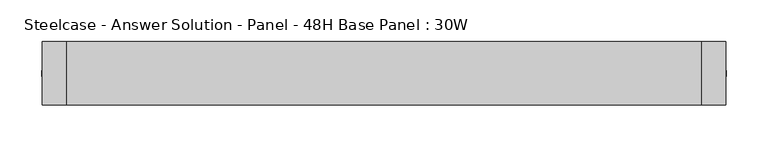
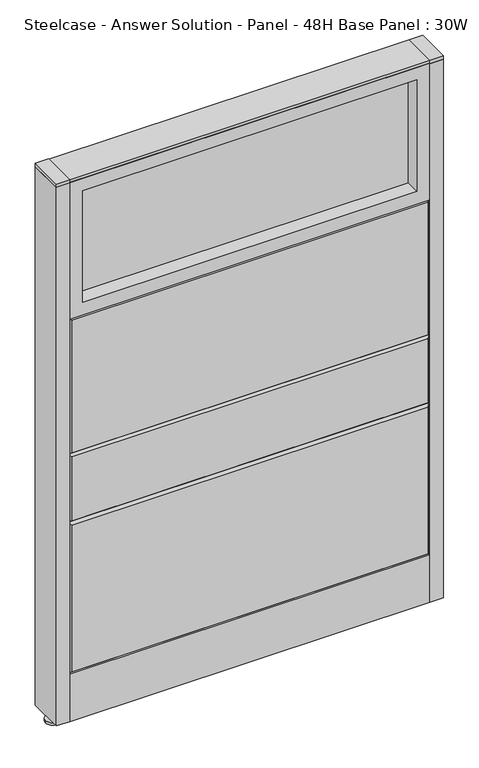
"""IFC4 building model written with IfcOpenShell, lengths in millimetres: furniture geometry, Steelcase - Answer Solution - Panel - 48H Base Panel : 30W."""

from ifc_helpers import new_model, si_unit, point, frame, frame_2d, origin, place, context, project, spatial, polyline, circle_curve, trimmed, segment, composite_curve, outline, extrude, faceted_brep, source, transform, mapped, element, save


def steelcase_answer_solution_panel_48h_base_panel_30w_a982f98d(model_context):
    return source(origin(), model_context, "Body", "SolidModel", [
        extrude(outline(composite_curve([segment(trimmed(circle_curve(frame_2d((395.224, 0.0320214)), 5.08), [point((400.304, 0.0320214))], [point((390.144, 0.0320214))], False, "CARTESIAN"), True, "CONTINUOUS"), segment(trimmed(circle_curve(frame_2d((395.224, 0.0320214)), 5.08), [point((390.144, 0.0320214))], [point((400.304, 0.0320214))], False, "CARTESIAN"), True, "CONTINUOUS")], self_intersect=False)), frame((0.0, 0.0, 5.0799671), z_axis=(0.0, 0.0, 1.0), x_axis=(1.0, 0.0, 0.0)), (0.0, 0.0, 1.0), 10.414),
        extrude(outline(composite_curve([segment(trimmed(circle_curve(frame_2d((395.224, 0.0320214)), 15.24), [point((410.464, 0.0320214))], [point((379.984, 0.0320214))], False, "CARTESIAN"), True, "CONTINUOUS"), segment(trimmed(circle_curve(frame_2d((395.224, 0.0320214)), 15.24), [point((379.984, 0.0320214))], [point((410.464, 0.0320214))], False, "CARTESIAN"), True, "CONTINUOUS")], self_intersect=False)), frame((0.0, 0.0, -3.29e-05), z_axis=(0.0, 0.0, 1.0), x_axis=(1.0, 0.0, 0.0)), (0.0, 0.0, 1.0), 5.08),
        extrude(outline(polyline([(409.575, 38.1320408), (409.575, -38.0679592), (381.0, -38.0679592), (381.0, 38.1320408), (409.575, 38.1320408)])), frame((0.0, 0.0, 1218.2348), z_axis=(0.0, 0.0, 1.0), x_axis=(1.0, 0.0, 0.0)), (0.0, 0.0, 1.0), 7.3151671),
        extrude(outline(polyline([(409.575, 38.1320408), (409.575, -38.0679592), (381.0, -38.0679592), (381.0, 38.1320408), (409.575, 38.1320408)])), frame((0.0, 0.0, 15.4939671), z_axis=(0.0, 0.0, 1.0), x_axis=(1.0, 0.0, 0.0)), (0.0, 0.0, 1.0), 1202.7408329),
        extrude(outline(composite_curve([segment(trimmed(circle_curve(frame_2d((-395.224, 0.0320214)), 5.08), [point((-400.304, 0.0320214))], [point((-390.144, 0.0320214))], False, "CARTESIAN"), True, "CONTINUOUS"), segment(trimmed(circle_curve(frame_2d((-395.224, 0.0320214)), 5.08), [point((-390.144, 0.0320214))], [point((-400.304, 0.0320214))], False, "CARTESIAN"), True, "CONTINUOUS")], self_intersect=False)), frame((0.0, 0.0, 5.0799671), z_axis=(0.0, 0.0, 1.0), x_axis=(1.0, 0.0, 0.0)), (0.0, 0.0, 1.0), 10.414),
        extrude(outline(composite_curve([segment(trimmed(circle_curve(frame_2d((-395.224, 0.0320214)), 15.24), [point((-410.464, 0.0320214))], [point((-379.984, 0.0320214))], False, "CARTESIAN"), True, "CONTINUOUS"), segment(trimmed(circle_curve(frame_2d((-395.224, 0.0320214)), 15.24), [point((-379.984, 0.0320214))], [point((-410.464, 0.0320214))], False, "CARTESIAN"), True, "CONTINUOUS")], self_intersect=False)), frame((0.0, 0.0, -3.29e-05), z_axis=(0.0, 0.0, 1.0), x_axis=(1.0, 0.0, 0.0)), (0.0, 0.0, 1.0), 5.08),
        extrude(outline(polyline([(-409.575, 38.1320408), (-381.0, 38.1320408), (-381.0, -38.0679592), (-409.575, -38.0679592), (-409.575, 38.1320408)])), frame((0.0, 0.0, 1218.2348), z_axis=(0.0, 0.0, 1.0), x_axis=(1.0, 0.0, 0.0)), (0.0, 0.0, 1.0), 7.3151671),
        extrude(outline(polyline([(-409.575, 38.1320408), (-381.0, 38.1320408), (-381.0, -38.0679592), (-409.575, -38.0679592), (-409.575, 38.1320408)])), frame((0.0, 0.0, 15.4939671), z_axis=(0.0, 0.0, 1.0), x_axis=(1.0, 0.0, 0.0)), (0.0, 0.0, 1.0), 1202.7408329),
        extrude(outline(polyline([(-353.06, 6.346049), (353.06, 6.346049), (353.06, -6.353951), (-353.06, -6.353951), (-353.06, 6.346049)])), frame((0.0, 0.0, 942.34), z_axis=(0.0, 0.0, 1.0), x_axis=(1.0, 0.0, 0.0)), (0.0, 0.0, 1.0), 248.92),
        extrude(outline(polyline([(1219.2, -381.0), (914.4, -381.0), (914.4, 381.0), (1219.2, 381.0), (1219.2, -381.0)]), holes=[polyline([(1191.26, -353.06), (1191.26, 353.06), (942.34, 353.06), (942.34, -353.06), (1191.26, -353.06)])]), frame((0.0, -38.103951, 0.0), z_axis=(0.0, 1.0, 0.0), x_axis=(0.0, 0.0, 1.0)), (0.0, 0.0, 1.0), 76.2),
        faceted_brep([(-376.174, 38.1635011, 909.574), (376.174, 38.1635011, 909.574), (376.174, 38.1635011, 614.426), (-376.174, 38.1635011, 614.426), (-381.0, 33.3375011, 914.4), (-381.0, 33.3375011, 609.6), (381.0, 33.3375011, 609.6), (381.0, 33.3375011, 914.4)], [[[0, 1, 2, 3]], [[4, 5, 6, 7]], [[4, 7, 1, 0]], [[7, 6, 2, 1]], [[6, 5, 3, 2]], [[5, 4, 0, 3]]]),
        faceted_brep([(-376.174, 38.1635011, 604.774), (376.174, 38.1635011, 604.774), (376.174, 38.1635011, 462.026), (-376.174, 38.1635011, 462.026), (-381.0, 33.3375011, 609.6), (-381.0, 33.3375011, 457.2), (381.0, 33.3375011, 457.2), (381.0, 33.3375011, 609.6)], [[[0, 1, 2, 3]], [[4, 5, 6, 7]], [[4, 7, 1, 0]], [[7, 6, 2, 1]], [[6, 5, 3, 2]], [[5, 4, 0, 3]]]),
        faceted_brep([(-376.174, 38.1635011, 452.374), (376.174, 38.1635011, 452.374), (376.174, 38.1635011, 125.476), (-376.174, 38.1635011, 125.476), (-381.0, 33.3375011, 457.2), (-381.0, 33.3375011, 120.65), (381.0, 33.3375011, 120.65), (381.0, 33.3375011, 457.2)], [[[0, 1, 2, 3]], [[4, 5, 6, 7]], [[4, 7, 1, 0]], [[7, 6, 2, 1]], [[6, 5, 3, 2]], [[5, 4, 0, 3]]]),
        extrude(outline(polyline([(353.06, -6.346049), (-353.06, -6.346049), (-353.06, 6.353951), (353.06, 6.353951), (353.06, -6.346049)])), frame((0.0, 0.0, 942.34), z_axis=(0.0, 0.0, 1.0), x_axis=(1.0, 0.0, 0.0)), (0.0, 0.0, 1.0), 248.92),
        extrude(outline(polyline([(1219.2, 381.0), (1219.2, -381.0), (914.4, -381.0), (914.4, 381.0), (1219.2, 381.0)]), holes=[polyline([(1191.26, 353.06), (942.34, 353.06), (942.34, -353.06), (1191.26, -353.06), (1191.26, 353.06)])]), frame((0.0, -38.096049, 0.0), z_axis=(0.0, 1.0, 0.0), x_axis=(0.0, 0.0, 1.0)), (0.0, 0.0, 1.0), 76.2),
        faceted_brep([(376.174, -38.1635011, 909.574), (-376.174, -38.1635011, 909.574), (-376.174, -38.1635011, 614.426), (376.174, -38.1635011, 614.426), (381.0, -33.3375011, 914.4), (381.0, -33.3375011, 609.6), (-381.0, -33.3375011, 609.6), (-381.0, -33.3375011, 914.4)], [[[0, 1, 2, 3]], [[4, 5, 6, 7]], [[4, 7, 1, 0]], [[7, 6, 2, 1]], [[6, 5, 3, 2]], [[5, 4, 0, 3]]]),
        faceted_brep([(376.174, -38.1635011, 604.774), (-376.174, -38.1635011, 604.774), (-376.174, -38.1635011, 462.026), (376.174, -38.1635011, 462.026), (381.0, -33.3375011, 609.6), (381.0, -33.3375011, 457.2), (-381.0, -33.3375011, 457.2), (-381.0, -33.3375011, 609.6)], [[[0, 1, 2, 3]], [[4, 5, 6, 7]], [[4, 7, 1, 0]], [[7, 6, 2, 1]], [[6, 5, 3, 2]], [[5, 4, 0, 3]]]),
        faceted_brep([(376.174, -38.1635011, 452.374), (-376.174, -38.1635011, 452.374), (-376.174, -38.1635011, 125.476), (376.174, -38.1635011, 125.476), (381.0, -33.3375011, 457.2), (381.0, -33.3375011, 120.65), (-381.0, -33.3375011, 120.65), (-381.0, -33.3375011, 457.2)], [[[0, 1, 2, 3]], [[4, 5, 6, 7]], [[4, 7, 1, 0]], [[7, 6, 2, 1]], [[6, 5, 3, 2]], [[5, 4, 0, 3]]]),
        extrude(outline(polyline([(381.0, 38.1000194), (381.0, -38.1000194), (-381.0, -38.1000194), (-381.0, 38.1000194), (381.0, 38.1000194)])), frame((0.0, 0.0, 1219.2), z_axis=(0.0, 0.0, 1.0), x_axis=(1.0, 0.0, 0.0)), (0.0, 0.0, 1.0), 6.35),
        extrude(outline(polyline([(25.4000011, 119.8575157), (25.4000011, 120.65), (38.1000194, 120.65), (38.1000194, 15.494), (37.3075215, 15.494), (37.3075215, 119.8575157), (25.4000011, 119.8575157)])), frame((-381.0, 0.0, 0.0), z_axis=(1.0, 0.0, 0.0), x_axis=(0.0, 1.0, 0.0)), (0.0, 0.0, 1.0), 762.0),
        extrude(outline(polyline([(-25.4000011, 119.8575157), (-37.3075215, 119.8575157), (-37.3075215, 15.494), (-38.1000194, 15.494), (-38.1000194, 120.65), (-25.4000011, 120.65), (-25.4000011, 119.8575157)])), frame((-381.0, 0.0, 0.0), z_axis=(1.0, 0.0, 0.0), x_axis=(0.0, 1.0, 0.0)), (0.0, 0.0, 1.0), 762.0),
    ])


if __name__ == "__main__":
    model = new_model("IFC4")
    model_context = context("Model", 3, world=origin())
    ifc_project = project(units=[si_unit("LENGTHUNIT", "METRE", prefix="MILLI")], contexts=[model_context])
    site = spatial("IfcSite", under=ifc_project)
    building = spatial("IfcBuilding", under=site)
    placement = place(None, origin())
    steelcase_answer_solution_panel_48h_base_panel_30w_shape = steelcase_answer_solution_panel_48h_base_panel_30w_a982f98d(model_context)
    element("IfcFurniture", 1, ObjectType="Steelcase - Answer Solution - Panel - 48H Base Panel : 30W", at=placement, inside=building, context=model_context, shape_type="MappedRepresentation", body=[
        mapped(steelcase_answer_solution_panel_48h_base_panel_30w_shape, transform((0.0, 0.0, 0.0), x_axis=(1.0, 0.0, 0.0), y_axis=(0.0, 1.0, 0.0), z_axis=(0.0, 0.0, 1.0))),
    ])
    save(model, "model.ifc")
